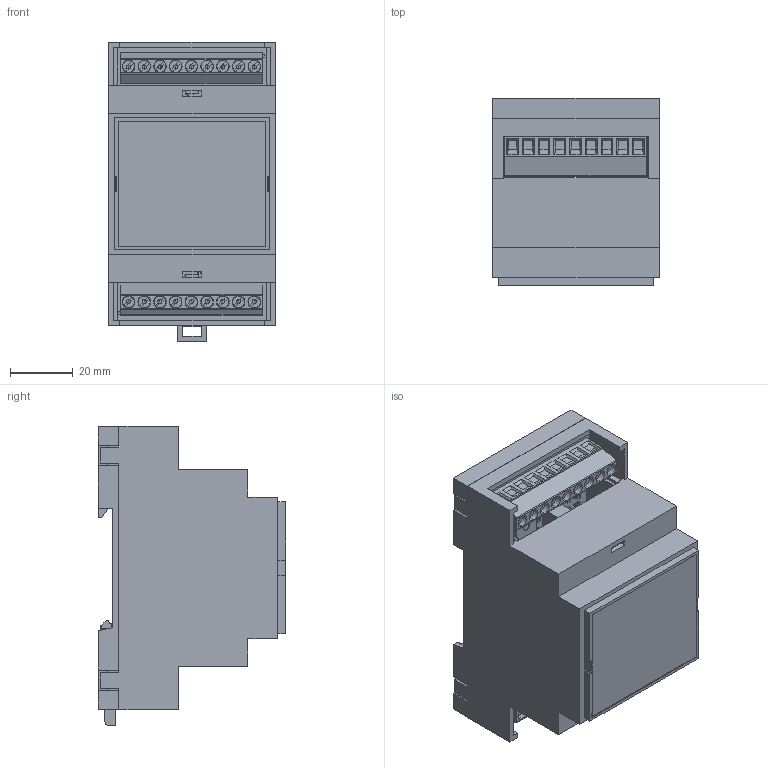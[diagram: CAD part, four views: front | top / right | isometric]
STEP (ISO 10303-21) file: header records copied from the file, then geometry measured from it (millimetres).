
FILE_DESCRIPTION(/* description */ (''),/* implementation_level */ '2;1');
FILE_NAME(/* name */ 'C:\Enapter\CAD\Modules\ENP-HTE_Cad_3d.stp',/* time_stamp */ '2020-03-20T16:17:47+03:00',/* author */ ('IgorAzarkh'),/* organization */ (''),/* preprocessor_version */ 'ST-DEVELOPER v18',/* originating_system */ 'AutoCAD Mechanical',/* authorisation */ '');
FILE_SCHEMA (('AUTOMOTIVE_DESIGN { 1 0 10303 214 3 1 1 }'));
Products named in the file (42): Product; ENP-HTE; D3MG-BASE; D3MG-BODY; D3MG-COVER; D3MG-WALL-CLIP; PinHeader_1x02_P2.54mm_Vertical; SOLID$3$ATF; Inductor; COMPOUND; SOIC-16W_7.5x10.3mm_P1.27mm; SOLID$10$ATF; User_Library-DCDCSIL4; COMPOUND$1$ATF; SOIC-8_3.9x4.9mm_P1.27mm; SOLID$9$ATF; SOT-23-5; SOLID$12$ATF; TO-263-5_TabPin3; SOLID$13$ATF; R_0805_2012Metric; SOLID$1$ATF; MKDS_1$5-9; SOLID$4$ATF; D_SOD-323; SOLID$7$ATF; SOT-23; SOLID$11$ATF; D_SOD-123; SOLID$16$ATF; LED_0805_2012Metric; SOLID$17$ATF; CP_Elec_5x4.5; SOLID$18$ATF; CP_Radial_D10.0mm_P5.00mm; SOLID$19$ATF; CP_Radial_D8.0mm_P3.80mm; SOLID$20$ATF; C_0805_2012Metric; SOLID$8$ATF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
Assembly tree (99 placements, depth 4):
  Product
    ENP-HTE
      D3MG-BASE
      D3MG-BODY
      D3MG-COVER
      D3MG-WALL-CLIP
      R_0805_2012Metric  x29
        SOLID$1$ATF
      PinHeader_1x02_P2.54mm_Vertical
        SOLID$3$ATF
      MKDS_1$5-9  x2
        SOLID$4$ATF
      D_SOD-323  x3
        SOLID$7$ATF
      C_0805_2012Metric  x21
        SOLID$8$ATF
      Inductor
        COMPOUND
      SOIC-8_3.9x4.9mm_P1.27mm  x3
        SOLID$9$ATF
      SOIC-16W_7.5x10.3mm_P1.27mm
        SOLID$10$ATF
      User_Library-DCDCSIL4
        COMPOUND$1$ATF
      SOT-23  x3
        SOLID$11$ATF
      SOT-23-5  x2
        SOLID$12$ATF
      TO-263-5_TabPin3
        SOLID$13$ATF
      D_SOD-123
        SOLID$16$ATF
      LED_0805_2012Metric
        SOLID$17$ATF
      CP_Elec_5x4.5  x3
        SOLID$18$ATF
      CP_Radial_D10.0mm_P5.00mm
        SOLID$19$ATF
      CP_Radial_D8.0mm_P3.80mm
        SOLID$20$ATF
      COMPOUND$2$ATF
      A$C51803037
Bounding box: 53 x 59.5 x 95.34 mm (x, y, z)
Volume: 60284.3 mm3; surface area: 74636.9 mm2
Topology: 120 solids, 170 shells, 7272 faces, 18608 edges, 11768 vertices
Faces by surface type: plane 5419, cylinder 1677, torus 95, sphere 38, bspline 35, cone 8
Full cylindrical faces by diameter (mm): 0.5 x2, 0.6 x4, 0.689 x22, 0.7 x16, 0.762 x4, 0.787 x2, 0.8 x2, 1 x4, 1.3 x18, 1.476 x2, 2.5 x1, 3.937 x1, 4.921 x6, 5 x6, 7.874 x2
Entity records: 147959 total; most frequent: CARTESIAN_POINT 28944, DIRECTION 24388, ORIENTED_EDGE 24328, EDGE_CURVE 12276, LINE 9822, VECTOR 9822, VERTEX_POINT 7756, AXIS2_PLACEMENT_3D 7283
